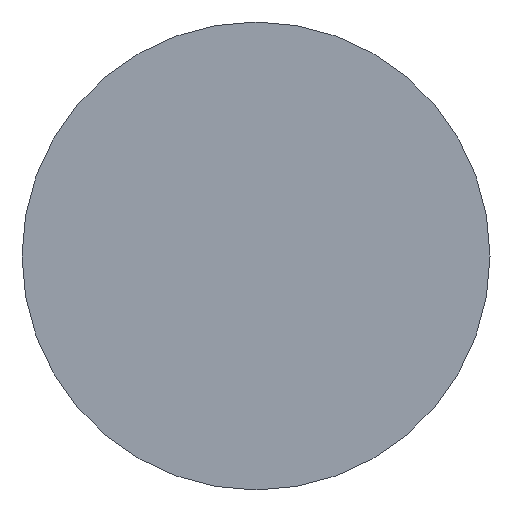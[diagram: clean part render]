
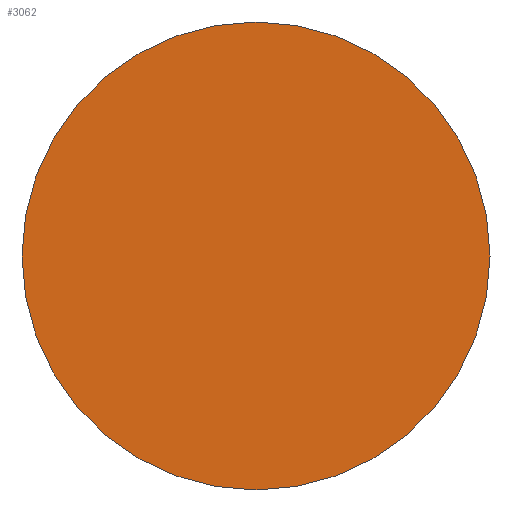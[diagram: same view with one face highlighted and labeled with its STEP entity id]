
A CAD part, front view. The second image highlights one B-rep face of the part: STEP entity #3062.
In plain terms, the highlighted planar face has unit normal (0, -1, 0).
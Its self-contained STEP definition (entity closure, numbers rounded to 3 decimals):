
#2 = CARTESIAN_POINT ( 'NONE',  ( 41., -30., 0. ) ) ;
#326 = FACE_OUTER_BOUND ( 'NONE', #4173, .T. ) ;
#371 = AXIS2_PLACEMENT_3D ( 'NONE', #3897, #1260, #2577 ) ;
#507 = CIRCLE ( 'NONE', #371, 41. ) ;
#933 = DIRECTION ( 'NONE',  ( 1., 0., 0. ) ) ;
#996 = DIRECTION ( 'NONE',  ( 1., 0., 0. ) ) ;
#1105 = CARTESIAN_POINT ( 'NONE',  ( 41., -30., 0. ) ) ;
#1260 = DIRECTION ( 'NONE',  ( 0., -1., 0. ) ) ;
#1328 = DIRECTION ( 'NONE',  ( 0., -1., 0. ) ) ;
#1622 = AXIS2_PLACEMENT_3D ( 'NONE', #2, #1328, #996 ) ;
#1969 = CIRCLE ( 'NONE', #3338, 41. ) ;
#2018 = CARTESIAN_POINT ( 'NONE',  ( 0., -30., 0. ) ) ;
#2139 = VERTEX_POINT ( 'NONE', #1105 ) ;
#2164 = CARTESIAN_POINT ( 'NONE',  ( -41., -30., 0. ) ) ;
#2292 = ORIENTED_EDGE ( 'NONE', *, *, #2948, .T. ) ;
#2577 = DIRECTION ( 'NONE',  ( 1., 0., 0. ) ) ;
#2602 = PLANE ( 'NONE',  #1622 ) ;
#2662 = DIRECTION ( 'NONE',  ( 0., -1., 0. ) ) ;
#2948 = EDGE_CURVE ( 'NONE', #3931, #2139, #1969, .T. ) ;
#3062 = ADVANCED_FACE ( 'NONE', ( #326 ), #2602, .T. ) ;
#3226 = EDGE_CURVE ( 'NONE', #2139, #3931, #507, .T. ) ;
#3338 = AXIS2_PLACEMENT_3D ( 'NONE', #2018, #2662, #933 ) ;
#3501 = ORIENTED_EDGE ( 'NONE', *, *, #3226, .T. ) ;
#3897 = CARTESIAN_POINT ( 'NONE',  ( 0., -30., 0. ) ) ;
#3931 = VERTEX_POINT ( 'NONE', #2164 ) ;
#4173 = EDGE_LOOP ( 'NONE', ( #3501, #2292 ) ) ;
